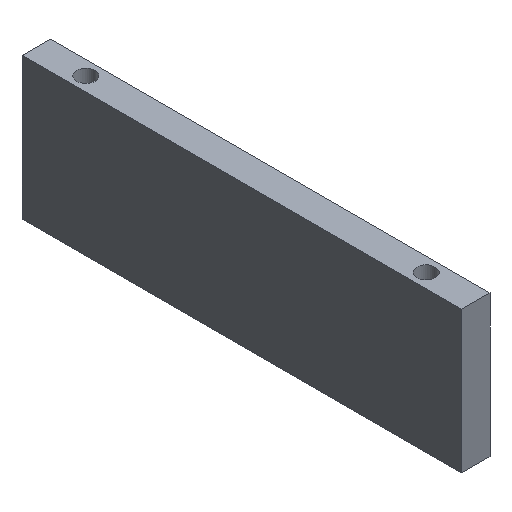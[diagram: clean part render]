
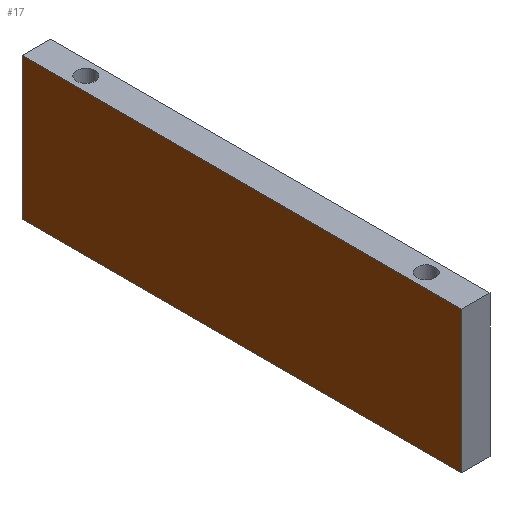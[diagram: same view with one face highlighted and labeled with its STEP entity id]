
A CAD part, isometric view. The second image highlights one B-rep face of the part: STEP entity #17.
In plain terms, the highlighted planar face has unit normal (-1, 0, 0).
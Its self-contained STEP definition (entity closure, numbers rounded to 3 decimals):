
#17 = ADVANCED_FACE('',(#18),#32,.F.);
#18 = FACE_BOUND('',#19,.F.);
#19 = EDGE_LOOP('',(#20,#55,#83,#111));
#20 = ORIENTED_EDGE('',*,*,#21,.F.);
#21 = EDGE_CURVE('',#22,#24,#26,.T.);
#22 = VERTEX_POINT('',#23);
#23 = CARTESIAN_POINT('',(-4.,-31.,0.));
#24 = VERTEX_POINT('',#25);
#25 = CARTESIAN_POINT('',(-4.,-31.,20.));
#26 = SURFACE_CURVE('',#27,(#31,#43),.PCURVE_S1.);
#27 = LINE('',#28,#29);
#28 = CARTESIAN_POINT('',(-4.,-31.,0.));
#29 = VECTOR('',#30,1.);
#30 = DIRECTION('',(0.,0.,1.));
#31 = PCURVE('',#32,#37);
#32 = PLANE('',#33);
#33 = AXIS2_PLACEMENT_3D('',#34,#35,#36);
#34 = CARTESIAN_POINT('',(-4.,-31.,0.));
#35 = DIRECTION('',(1.,0.,0.));
#36 = DIRECTION('',(0.,0.,1.));
#37 = DEFINITIONAL_REPRESENTATION('',(#38),#42);
#38 = LINE('',#39,#40);
#39 = CARTESIAN_POINT('',(0.,0.));
#40 = VECTOR('',#41,1.);
#41 = DIRECTION('',(1.,0.));
#42 = ( GEOMETRIC_REPRESENTATION_CONTEXT(2) 
PARAMETRIC_REPRESENTATION_CONTEXT() REPRESENTATION_CONTEXT('2D SPACE',''
  ) );
#43 = PCURVE('',#44,#49);
#44 = PLANE('',#45);
#45 = AXIS2_PLACEMENT_3D('',#46,#47,#48);
#46 = CARTESIAN_POINT('',(-4.,-31.,0.));
#47 = DIRECTION('',(0.,1.,0.));
#48 = DIRECTION('',(0.,0.,1.));
#49 = DEFINITIONAL_REPRESENTATION('',(#50),#54);
#50 = LINE('',#51,#52);
#51 = CARTESIAN_POINT('',(0.,0.));
#52 = VECTOR('',#53,1.);
#53 = DIRECTION('',(1.,0.));
#54 = ( GEOMETRIC_REPRESENTATION_CONTEXT(2) 
PARAMETRIC_REPRESENTATION_CONTEXT() REPRESENTATION_CONTEXT('2D SPACE',''
  ) );
#55 = ORIENTED_EDGE('',*,*,#56,.T.);
#56 = EDGE_CURVE('',#22,#57,#59,.T.);
#57 = VERTEX_POINT('',#58);
#58 = CARTESIAN_POINT('',(-4.,31.,0.));
#59 = SURFACE_CURVE('',#60,(#64,#71),.PCURVE_S1.);
#60 = LINE('',#61,#62);
#61 = CARTESIAN_POINT('',(-4.,-31.,0.));
#62 = VECTOR('',#63,1.);
#63 = DIRECTION('',(0.,1.,0.));
#64 = PCURVE('',#32,#65);
#65 = DEFINITIONAL_REPRESENTATION('',(#66),#70);
#66 = LINE('',#67,#68);
#67 = CARTESIAN_POINT('',(0.,0.));
#68 = VECTOR('',#69,1.);
#69 = DIRECTION('',(0.,-1.));
#70 = ( GEOMETRIC_REPRESENTATION_CONTEXT(2) 
PARAMETRIC_REPRESENTATION_CONTEXT() REPRESENTATION_CONTEXT('2D SPACE',''
  ) );
#71 = PCURVE('',#72,#77);
#72 = PLANE('',#73);
#73 = AXIS2_PLACEMENT_3D('',#74,#75,#76);
#74 = CARTESIAN_POINT('',(-4.,-31.,0.));
#75 = DIRECTION('',(0.,0.,1.));
#76 = DIRECTION('',(1.,0.,0.));
#77 = DEFINITIONAL_REPRESENTATION('',(#78),#82);
#78 = LINE('',#79,#80);
#79 = CARTESIAN_POINT('',(0.,0.));
#80 = VECTOR('',#81,1.);
#81 = DIRECTION('',(0.,1.));
#82 = ( GEOMETRIC_REPRESENTATION_CONTEXT(2) 
PARAMETRIC_REPRESENTATION_CONTEXT() REPRESENTATION_CONTEXT('2D SPACE',''
  ) );
#83 = ORIENTED_EDGE('',*,*,#84,.T.);
#84 = EDGE_CURVE('',#57,#85,#87,.T.);
#85 = VERTEX_POINT('',#86);
#86 = CARTESIAN_POINT('',(-4.,31.,20.));
#87 = SURFACE_CURVE('',#88,(#92,#99),.PCURVE_S1.);
#88 = LINE('',#89,#90);
#89 = CARTESIAN_POINT('',(-4.,31.,0.));
#90 = VECTOR('',#91,1.);
#91 = DIRECTION('',(0.,0.,1.));
#92 = PCURVE('',#32,#93);
#93 = DEFINITIONAL_REPRESENTATION('',(#94),#98);
#94 = LINE('',#95,#96);
#95 = CARTESIAN_POINT('',(0.,-62.));
#96 = VECTOR('',#97,1.);
#97 = DIRECTION('',(1.,0.));
#98 = ( GEOMETRIC_REPRESENTATION_CONTEXT(2) 
PARAMETRIC_REPRESENTATION_CONTEXT() REPRESENTATION_CONTEXT('2D SPACE',''
  ) );
#99 = PCURVE('',#100,#105);
#100 = PLANE('',#101);
#101 = AXIS2_PLACEMENT_3D('',#102,#103,#104);
#102 = CARTESIAN_POINT('',(-4.,31.,0.));
#103 = DIRECTION('',(0.,1.,0.));
#104 = DIRECTION('',(0.,0.,1.));
#105 = DEFINITIONAL_REPRESENTATION('',(#106),#110);
#106 = LINE('',#107,#108);
#107 = CARTESIAN_POINT('',(0.,0.));
#108 = VECTOR('',#109,1.);
#109 = DIRECTION('',(1.,0.));
#110 = ( GEOMETRIC_REPRESENTATION_CONTEXT(2) 
PARAMETRIC_REPRESENTATION_CONTEXT() REPRESENTATION_CONTEXT('2D SPACE',''
  ) );
#111 = ORIENTED_EDGE('',*,*,#112,.F.);
#112 = EDGE_CURVE('',#24,#85,#113,.T.);
#113 = SURFACE_CURVE('',#114,(#118,#125),.PCURVE_S1.);
#114 = LINE('',#115,#116);
#115 = CARTESIAN_POINT('',(-4.,-31.,20.));
#116 = VECTOR('',#117,1.);
#117 = DIRECTION('',(0.,1.,0.));
#118 = PCURVE('',#32,#119);
#119 = DEFINITIONAL_REPRESENTATION('',(#120),#124);
#120 = LINE('',#121,#122);
#121 = CARTESIAN_POINT('',(20.,0.));
#122 = VECTOR('',#123,1.);
#123 = DIRECTION('',(0.,-1.));
#124 = ( GEOMETRIC_REPRESENTATION_CONTEXT(2) 
PARAMETRIC_REPRESENTATION_CONTEXT() REPRESENTATION_CONTEXT('2D SPACE',''
  ) );
#125 = PCURVE('',#126,#131);
#126 = PLANE('',#127);
#127 = AXIS2_PLACEMENT_3D('',#128,#129,#130);
#128 = CARTESIAN_POINT('',(-4.,-31.,20.));
#129 = DIRECTION('',(0.,0.,1.));
#130 = DIRECTION('',(1.,0.,0.));
#131 = DEFINITIONAL_REPRESENTATION('',(#132),#136);
#132 = LINE('',#133,#134);
#133 = CARTESIAN_POINT('',(0.,0.));
#134 = VECTOR('',#135,1.);
#135 = DIRECTION('',(0.,1.));
#136 = ( GEOMETRIC_REPRESENTATION_CONTEXT(2) 
PARAMETRIC_REPRESENTATION_CONTEXT() REPRESENTATION_CONTEXT('2D SPACE',''
  ) );
